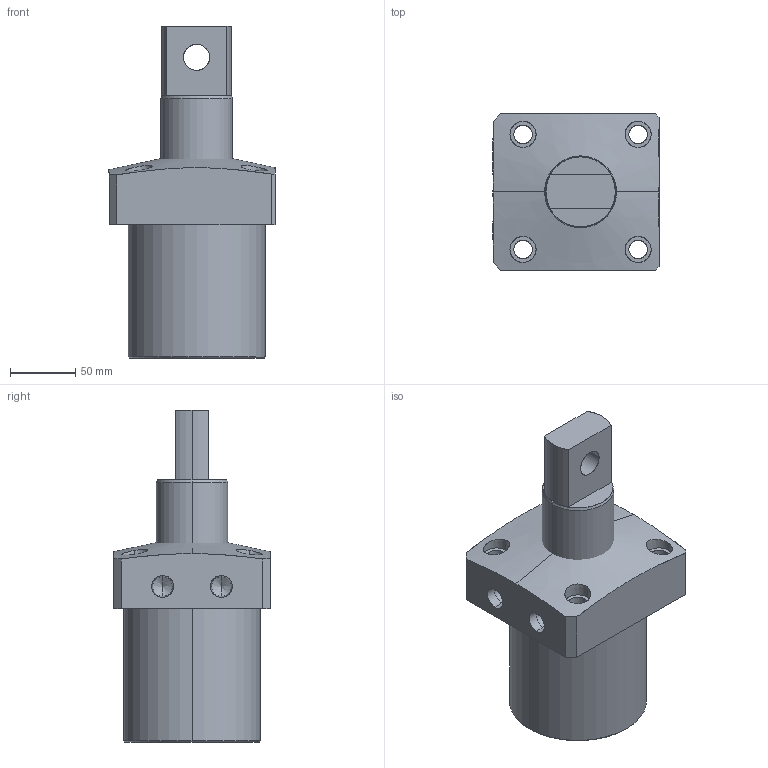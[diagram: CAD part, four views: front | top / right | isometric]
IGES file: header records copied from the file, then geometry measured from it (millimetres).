
Start section: SolidWorks IGES file using analytic representation for surfaces
Global section: file name: E:\SWING-105\SC02-1052-LP-TOP-PTYPE.IGS; native system: SolidWorks 2019; preprocessor: SolidWorks 2019; author: SSVT; date: 210823.143113; units: millimetre
Bounding box: 127 x 120 x 254 mm (x, y, z)
Surface area: 147303.4 mm2 (no closed solid volume)
Topology: 0 solids, 0 shells, 72 faces, 1741 edges, 1737 vertices
Faces by surface type: revolution 49, bspline 23
